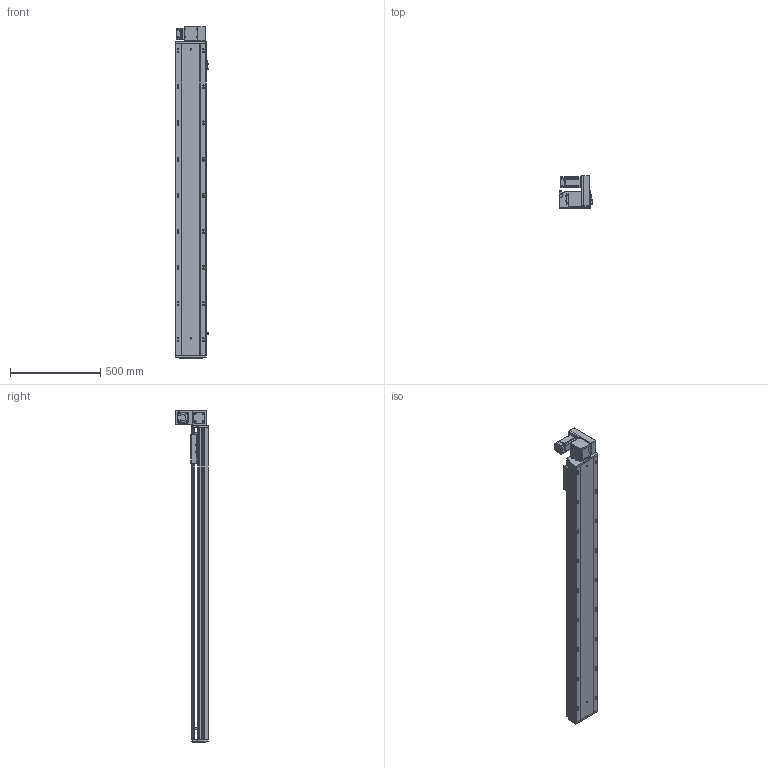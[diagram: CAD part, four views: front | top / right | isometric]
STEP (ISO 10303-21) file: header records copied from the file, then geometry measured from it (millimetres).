
FILE_DESCRIPTION (( 'STEP AP203' ), '1' );
FILE_NAME ('RY170-T-300-UR-P400W.SLDASM_1450.step', '2021-03-01T09:28:16', ( '盈信电脑' ), ( '东莞市道滘镇水果街19号' ), 'SwSTEP 2.0', 'SolidWorks 2012', '' );
FILE_SCHEMA (( 'CONFIG_CONTROL_DESIGN' ));
Length unit declared in the file: millimetre
Products named in the file (18): 15; RY170-T-300-UR-P400W.SLDASM_1450; RY170-T蹟翐M4; 滅袉蝶18-10; RY120-T主同步轮轴承压盖; RY170-T肮祭湍揤踡輸1; RY170-T肮祭謫裔啣; RY170-T肮祭湍揤踡輸2; RY170肮祭謫萇儂欶; RY170翋肮祭謫釱; RY170同步轮电机安装板(400W); RY170肮祭謫ヶ裔啣; RY170外置感应片(200共用）; 覜茼ん672; RY170綴裔啣; RY170-T-300肮祭謫倰第裔啣-DR_1450; RY170肮祭湍臏賑輸; RY170-T-300肮祭謫倰第菁釱-DR_1450
Assembly tree (22 placements, depth 2):
  RY170-T-300-UR-P400W.SLDASM_1450
    RY170-T-300肮祭謫倰第菁釱-DR_1450
    RY170肮祭湍臏賑輸
    RY170-T-300肮祭謫倰第裔啣-DR_1450
    RY170綴裔啣
    覜茼ん672  x3
    RY170外置感应片(200共用）
    RY170肮祭謫ヶ裔啣
    RY170翋肮祭謫釱
    RY170同步轮电机安装板(400W)
    RY170肮祭謫萇儂欶
    RY170-T肮祭湍揤踡輸1  x2
    RY170-T肮祭湍揤踡輸2  x2
    RY120-T主同步轮轴承压盖
    RY170-T肮祭謫裔啣
    RY170-T蹟翐M4
    滅袉蝶18-10  x2
    15
Bounding box: 183.7 x 182 x 1838 mm (x, y, z)
Volume: 8795898.8 mm3; surface area: 3008300.9 mm2
Topology: 22 solids, 22 shells, 2856 faces, 7950 edges, 5085 vertices
Faces by surface type: cylinder 1294, plane 1264, cone 268, bspline 30
Entity records: 85632 total; most frequent: CARTESIAN_POINT 19302, ORIENTED_EDGE 13544, DIRECTION 13302, EDGE_CURVE 6772, AXIS2_PLACEMENT_3D 4695, VERTEX_POINT 4441, VECTOR 3912, LINE 3912
